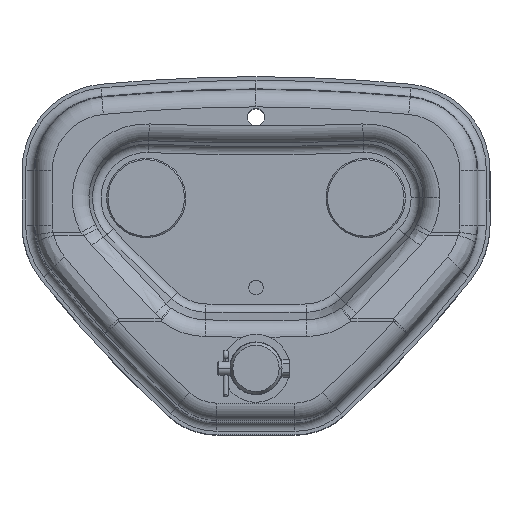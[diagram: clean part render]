
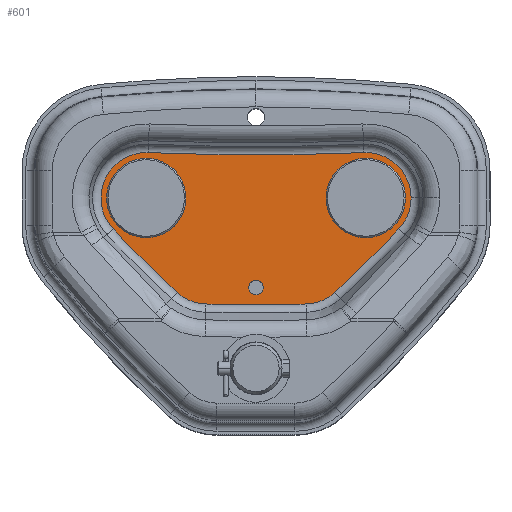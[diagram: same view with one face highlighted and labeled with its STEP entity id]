
A CAD part, top view. The second image highlights one B-rep face of the part: STEP entity #601.
In plain terms, the highlighted planar face has unit normal (0, 0, 1).
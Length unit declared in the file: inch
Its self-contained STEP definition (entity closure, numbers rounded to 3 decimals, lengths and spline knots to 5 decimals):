
#211 = DIRECTION ( 'NONE',  ( 0., 0., 1. ) ) ;
#601 = ADVANCED_FACE ( 'NONE', ( #14866, #6625, #15005, #20991 ), #16969, .T. ) ;
#798 = AXIS2_PLACEMENT_3D ( 'NONE', #8552, #23459, #25148 ) ;
#805 = CARTESIAN_POINT ( 'NONE',  ( 3.89764, 4.64567, 0.23622 ) ) ;
#906 = AXIS2_PLACEMENT_3D ( 'NONE', #1738, #24734, #24880 ) ;
#921 = VERTEX_POINT ( 'NONE', #9616 ) ;
#1085 = VERTEX_POINT ( 'NONE', #20133 ) ;
#1102 = DIRECTION ( 'NONE',  ( 1., 0., 0. ) ) ;
#1494 = CIRCLE ( 'NONE', #26873, 0.90551 ) ;
#1631 = CIRCLE ( 'NONE', #25256, 0.20276 ) ;
#1738 = CARTESIAN_POINT ( 'NONE',  ( 0., 64.55239, 0.23622 ) ) ;
#1759 = DIRECTION ( 'NONE',  ( 0., 0., 1. ) ) ;
#1877 = CARTESIAN_POINT ( 'NONE',  ( 0., 76.86718, 0.23622 ) ) ;
#2367 = CIRCLE ( 'NONE', #25077, 1.23606 ) ;
#2471 = CARTESIAN_POINT ( 'NONE',  ( -2.99213, 4.64567, 0.23622 ) ) ;
#3341 = ORIENTED_EDGE ( 'NONE', *, *, #21135, .T. ) ;
#3464 = EDGE_CURVE ( 'NONE', #23093, #6159, #11713, .T. ) ;
#3984 = DIRECTION ( 'NONE',  ( 0., 0., 1. ) ) ;
#4140 = DIRECTION ( 'NONE',  ( 1., 0., 0. ) ) ;
#4303 = DIRECTION ( 'NONE',  ( 1., 0., 0. ) ) ;
#4312 = EDGE_CURVE ( 'NONE', #17498, #1085, #1494, .T. ) ;
#4331 = CARTESIAN_POINT ( 'NONE',  ( 4.22819, 4.64567, 0.23622 ) ) ;
#4377 = DIRECTION ( 'NONE',  ( 0., 0., 1. ) ) ;
#4484 = AXIS2_PLACEMENT_3D ( 'NONE', #15922, #11731, #7550 ) ;
#4842 = CARTESIAN_POINT ( 'NONE',  ( 2.94096, 5.88067, 0.23622 ) ) ;
#4913 = CIRCLE ( 'NONE', #4484, 0.90551 ) ;
#5755 = AXIS2_PLACEMENT_3D ( 'NONE', #24877, #25175, #18908 ) ;
#6159 = VERTEX_POINT ( 'NONE', #9130 ) ;
#6342 = CARTESIAN_POINT ( 'NONE',  ( -1.33858, 2.95276, 0.23622 ) ) ;
#6380 = AXIS2_PLACEMENT_3D ( 'NONE', #6501, #3984, #21134 ) ;
#6501 = CARTESIAN_POINT ( 'NONE',  ( 0., 0., 0.23622 ) ) ;
#6625 = FACE_BOUND ( 'NONE', #14838, .T. ) ;
#6964 = EDGE_CURVE ( 'NONE', #26724, #20731, #18225, .T. ) ;
#6977 = EDGE_CURVE ( 'NONE', #9451, #16390, #21353, .T. ) ;
#7140 = CIRCLE ( 'NONE', #19583, 1.19669 ) ;
#7369 = VERTEX_POINT ( 'NONE', #20676 ) ;
#7400 = ORIENTED_EDGE ( 'NONE', *, *, #23631, .T. ) ;
#7550 = DIRECTION ( 'NONE',  ( 1., 0., 0. ) ) ;
#7873 = DIRECTION ( 'NONE',  ( 1., 0., 0. ) ) ;
#8144 = ORIENTED_EDGE ( 'NONE', *, *, #17803, .T. ) ;
#8552 = CARTESIAN_POINT ( 'NONE',  ( 1.33858, 2.95276, 0.23622 ) ) ;
#8916 = ORIENTED_EDGE ( 'NONE', *, *, #16013, .T. ) ;
#8918 = CIRCLE ( 'NONE', #906, 62.81087 ) ;
#8931 = DIRECTION ( 'NONE',  ( 1., 0., 0. ) ) ;
#9130 = CARTESIAN_POINT ( 'NONE',  ( 3.89575, 3.80227, 0.23622 ) ) ;
#9451 = VERTEX_POINT ( 'NONE', #4842 ) ;
#9616 = CARTESIAN_POINT ( 'NONE',  ( -1.36458, 1.75634, 0.23622 ) ) ;
#9876 = VERTEX_POINT ( 'NONE', #13951 ) ;
#10235 = DIRECTION ( 'NONE',  ( 0., 0., -1. ) ) ;
#10527 = CARTESIAN_POINT ( 'NONE',  ( -18.99684, 25.16922, 0.23622 ) ) ;
#10669 = CARTESIAN_POINT ( 'NONE',  ( 2.99213, 4.64567, 0.23622 ) ) ;
#10808 = DIRECTION ( 'NONE',  ( 0., 0., 1. ) ) ;
#10962 = ORIENTED_EDGE ( 'NONE', *, *, #22997, .F. ) ;
#11271 = EDGE_CURVE ( 'NONE', #9876, #7369, #14575, .T. ) ;
#11466 = CARTESIAN_POINT ( 'NONE',  ( 2.08661, 4.64567, 0.23622 ) ) ;
#11532 = EDGE_LOOP ( 'NONE', ( #20625, #14251 ) ) ;
#11709 = VERTEX_POINT ( 'NONE', #11466 ) ;
#11713 = CIRCLE ( 'NONE', #18851, 31.3148 ) ;
#11731 = DIRECTION ( 'NONE',  ( 0., 0., 1. ) ) ;
#11953 = DIRECTION ( 'NONE',  ( 0., 0., 1. ) ) ;
#11973 = AXIS2_PLACEMENT_3D ( 'NONE', #1877, #10235, #7873 ) ;
#12216 = CARTESIAN_POINT ( 'NONE',  ( -2.14658, 2.07002, 0.23622 ) ) ;
#12220 = AXIS2_PLACEMENT_3D ( 'NONE', #12618, #211, #25998 ) ;
#12312 = DIRECTION ( 'NONE',  ( 0., 0., 1. ) ) ;
#12618 = CARTESIAN_POINT ( 'NONE',  ( 2.99213, 4.64567, 0.23622 ) ) ;
#13882 = DIRECTION ( 'NONE',  ( 0., 0., 1. ) ) ;
#13951 = CARTESIAN_POINT ( 'NONE',  ( -0.20276, 2.20472, 0.23622 ) ) ;
#14084 = EDGE_CURVE ( 'NONE', #921, #18994, #8918, .T. ) ;
#14251 = ORIENTED_EDGE ( 'NONE', *, *, #4312, .F. ) ;
#14417 = EDGE_CURVE ( 'NONE', #20532, #11709, #4913, .T. ) ;
#14575 = CIRCLE ( 'NONE', #18590, 0.20276 ) ;
#14727 = EDGE_LOOP ( 'NONE', ( #7400, #23210, #8916, #18597, #18566, #8144, #21192, #3341, #18936 ) ) ;
#14838 = EDGE_LOOP ( 'NONE', ( #22283, #21832 ) ) ;
#14866 = FACE_BOUND ( 'NONE', #17275, .T. ) ;
#15005 = FACE_BOUND ( 'NONE', #11532, .T. ) ;
#15022 = CIRCLE ( 'NONE', #18567, 0.90551 ) ;
#15063 = CIRCLE ( 'NONE', #798, 1.19669 ) ;
#15852 = CARTESIAN_POINT ( 'NONE',  ( 0., 2.20472, 0.23622 ) ) ;
#15922 = CARTESIAN_POINT ( 'NONE',  ( 2.99213, 4.64567, 0.23622 ) ) ;
#16013 = EDGE_CURVE ( 'NONE', #6159, #17658, #18035, .T. ) ;
#16390 = VERTEX_POINT ( 'NONE', #19825 ) ;
#16669 = DIRECTION ( 'NONE',  ( 1., 0., 0. ) ) ;
#16969 = PLANE ( 'NONE',  #6380 ) ;
#17147 = DIRECTION ( 'NONE',  ( 0., 0., 1. ) ) ;
#17275 = EDGE_LOOP ( 'NONE', ( #10962, #18457 ) ) ;
#17498 = VERTEX_POINT ( 'NONE', #20358 ) ;
#17606 = CIRCLE ( 'NONE', #26053, 1.23606 ) ;
#17658 = VERTEX_POINT ( 'NONE', #4331 ) ;
#17803 = EDGE_CURVE ( 'NONE', #16390, #26724, #17606, .T. ) ;
#17821 = DIRECTION ( 'NONE',  ( 1., 0., 0. ) ) ;
#18035 = CIRCLE ( 'NONE', #12220, 1.23606 ) ;
#18225 = CIRCLE ( 'NONE', #5755, 31.3148 ) ;
#18457 = ORIENTED_EDGE ( 'NONE', *, *, #11271, .F. ) ;
#18566 = ORIENTED_EDGE ( 'NONE', *, *, #6977, .T. ) ;
#18567 = AXIS2_PLACEMENT_3D ( 'NONE', #2471, #17147, #4303 ) ;
#18590 = AXIS2_PLACEMENT_3D ( 'NONE', #20871, #1759, #22038 ) ;
#18597 = ORIENTED_EDGE ( 'NONE', *, *, #26112, .T. ) ;
#18851 = AXIS2_PLACEMENT_3D ( 'NONE', #10527, #19330, #4140 ) ;
#18908 = DIRECTION ( 'NONE',  ( 1., 0., 0. ) ) ;
#18936 = ORIENTED_EDGE ( 'NONE', *, *, #14084, .T. ) ;
#18994 = VERTEX_POINT ( 'NONE', #21433 ) ;
#19330 = DIRECTION ( 'NONE',  ( 0., 0., 1. ) ) ;
#19350 = CIRCLE ( 'NONE', #21560, 0.90551 ) ;
#19583 = AXIS2_PLACEMENT_3D ( 'NONE', #6342, #4377, #16669 ) ;
#19825 = CARTESIAN_POINT ( 'NONE',  ( -2.94096, 5.88067, 0.23622 ) ) ;
#20133 = CARTESIAN_POINT ( 'NONE',  ( -2.08661, 4.64567, 0.23622 ) ) ;
#20358 = CARTESIAN_POINT ( 'NONE',  ( -3.89764, 4.64567, 0.23622 ) ) ;
#20532 = VERTEX_POINT ( 'NONE', #805 ) ;
#20547 = CARTESIAN_POINT ( 'NONE',  ( 2.99213, 4.64567, 0.23622 ) ) ;
#20625 = ORIENTED_EDGE ( 'NONE', *, *, #22836, .F. ) ;
#20676 = CARTESIAN_POINT ( 'NONE',  ( 0.20276, 2.20472, 0.23622 ) ) ;
#20731 = VERTEX_POINT ( 'NONE', #12216 ) ;
#20871 = CARTESIAN_POINT ( 'NONE',  ( 0., 2.20472, 0.23622 ) ) ;
#20991 = FACE_OUTER_BOUND ( 'NONE', #14727, .T. ) ;
#21134 = DIRECTION ( 'NONE',  ( 1., 0., 0. ) ) ;
#21135 = EDGE_CURVE ( 'NONE', #20731, #921, #7140, .T. ) ;
#21192 = ORIENTED_EDGE ( 'NONE', *, *, #6964, .T. ) ;
#21353 = CIRCLE ( 'NONE', #11973, 71.0474 ) ;
#21433 = CARTESIAN_POINT ( 'NONE',  ( 1.36458, 1.75634, 0.23622 ) ) ;
#21560 = AXIS2_PLACEMENT_3D ( 'NONE', #10669, #10808, #23509 ) ;
#21832 = ORIENTED_EDGE ( 'NONE', *, *, #27268, .F. ) ;
#22038 = DIRECTION ( 'NONE',  ( 1., 0., 0. ) ) ;
#22244 = CARTESIAN_POINT ( 'NONE',  ( 2.14658, 2.07002, 0.23622 ) ) ;
#22276 = CARTESIAN_POINT ( 'NONE',  ( -2.99213, 4.64567, 0.23622 ) ) ;
#22283 = ORIENTED_EDGE ( 'NONE', *, *, #14417, .F. ) ;
#22836 = EDGE_CURVE ( 'NONE', #1085, #17498, #15022, .T. ) ;
#22997 = EDGE_CURVE ( 'NONE', #7369, #9876, #1631, .T. ) ;
#23093 = VERTEX_POINT ( 'NONE', #22244 ) ;
#23210 = ORIENTED_EDGE ( 'NONE', *, *, #3464, .T. ) ;
#23345 = DIRECTION ( 'NONE',  ( 1., 0., 0. ) ) ;
#23459 = DIRECTION ( 'NONE',  ( 0., 0., 1. ) ) ;
#23509 = DIRECTION ( 'NONE',  ( 1., 0., 0. ) ) ;
#23631 = EDGE_CURVE ( 'NONE', #18994, #23093, #15063, .T. ) ;
#23965 = DIRECTION ( 'NONE',  ( 0., 0., 1. ) ) ;
#24734 = DIRECTION ( 'NONE',  ( 0., 0., 1. ) ) ;
#24772 = CARTESIAN_POINT ( 'NONE',  ( -2.99213, 4.64567, 0.23622 ) ) ;
#24877 = CARTESIAN_POINT ( 'NONE',  ( 18.99684, 25.16922, 0.23622 ) ) ;
#24880 = DIRECTION ( 'NONE',  ( 1., 0., 0. ) ) ;
#25077 = AXIS2_PLACEMENT_3D ( 'NONE', #20547, #12312, #23345 ) ;
#25148 = DIRECTION ( 'NONE',  ( 1., 0., 0. ) ) ;
#25175 = DIRECTION ( 'NONE',  ( 0., 0., 1. ) ) ;
#25256 = AXIS2_PLACEMENT_3D ( 'NONE', #15852, #13882, #17821 ) ;
#25998 = DIRECTION ( 'NONE',  ( 1., 0., 0. ) ) ;
#26053 = AXIS2_PLACEMENT_3D ( 'NONE', #22276, #23965, #8931 ) ;
#26112 = EDGE_CURVE ( 'NONE', #17658, #9451, #2367, .T. ) ;
#26724 = VERTEX_POINT ( 'NONE', #26756 ) ;
#26756 = CARTESIAN_POINT ( 'NONE',  ( -3.89575, 3.80227, 0.23622 ) ) ;
#26873 = AXIS2_PLACEMENT_3D ( 'NONE', #24772, #11953, #1102 ) ;
#27268 = EDGE_CURVE ( 'NONE', #11709, #20532, #19350, .T. ) ;
